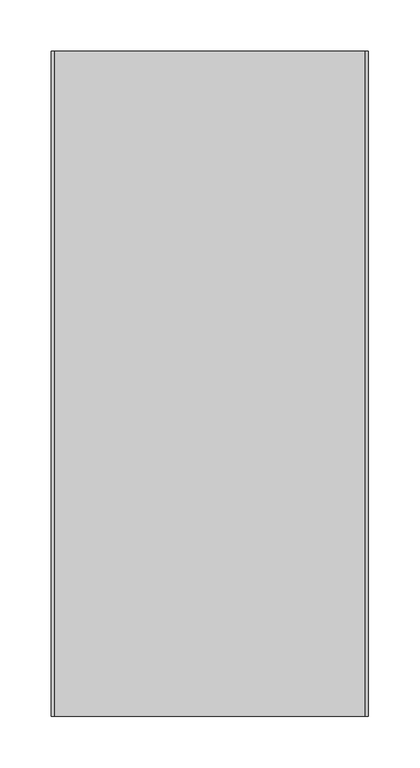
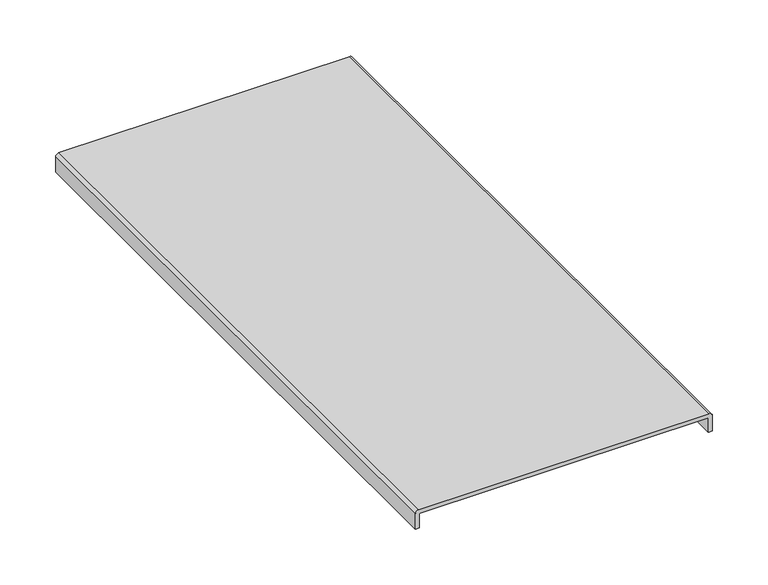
"""IFC4 building model written with IfcOpenShell, lengths in millimetres: proxy geometry, Cable_Tray_Cover_TWT_Basorcanal : Basorcanal TWT 300."""

from ifc_helpers import new_model, si_unit, point, frame, frame_2d, origin, place, context, project, spatial, polyline, circle_curve, trimmed, segment, composite_curve, outline, extrude, source, transform, mapped, element, save


def generic_models_6d804a78(model_context):
    return source(origin(), model_context, "Body", "SweptSolid", [
        extrude(outline(composite_curve([segment(trimmed(circle_curve(frame_2d((-0.5, -149.5)), 0.5), [point((-0.5, -150.0))], [point((0.0, -149.5))], True, "CARTESIAN"), True, "CONTINUOUS"), segment(polyline([(0.0, -149.5), (0.0, 149.5)]), True, "CONTINUOUS"), segment(trimmed(circle_curve(frame_2d((-0.5, 149.5)), 0.5), [point((0.0, 149.5))], [point((-0.5, 150.0))], True, "CARTESIAN"), True, "CONTINUOUS"), segment(polyline([(-0.5, 150.0), (-16.0, 150.0), (-16.0, 154.0), (0.9268922, 154.0)]), True, "CONTINUOUS"), segment(trimmed(circle_curve(frame_2d((0.9268922, 150.9268922)), 3.0731078), [point((0.9268922, 154.0))], [point((4.0, 150.9268922))], False, "CARTESIAN"), True, "CONTINUOUS"), segment(polyline([(4.0, 150.9268922), (4.0, -150.6770801)]), True, "CONTINUOUS"), segment(trimmed(circle_curve(frame_2d((0.6770801, -150.6770801)), 3.3229199), [point((4.0, -150.6770801))], [point((0.6770801, -154.0))], False, "CARTESIAN"), True, "CONTINUOUS"), segment(polyline([(0.6770801, -154.0), (-16.0, -154.0), (-16.0, -150.0), (-0.5, -150.0)]), True, "CONTINUOUS")], self_intersect=False)), frame((0.0, 0.0, 0.0), z_axis=(0.0, 1.0, 0.0), x_axis=(0.0, 0.0, 1.0)), (0.0, 0.0, 1.0), 646.5),
    ])


if __name__ == "__main__":
    model = new_model("IFC4")
    model_context = context("Model", 3, world=origin())
    ifc_project = project(units=[si_unit("LENGTHUNIT", "METRE", prefix="MILLI")], contexts=[model_context])
    site = spatial("IfcSite", under=ifc_project)
    building = spatial("IfcBuilding", under=site)
    placement = place(None, origin())
    generic_models_shape = generic_models_6d804a78(model_context)
    element("IfcBuildingElementProxy", 1, Name="Cable_Tray_Cover_TWT_Basorcanal : Basorcanal TWT 300", ObjectType="Cable_Tray_Cover_TWT_Basorcanal : Basorcanal TWT 300", at=placement, inside=building, context=model_context, shape_type="MappedRepresentation", body=[
        mapped(generic_models_shape, transform((0.0, 0.0, 0.0), x_axis=(1.0, 0.0, 0.0), y_axis=(0.0, 1.0, 0.0), z_axis=(0.0, 0.0, 1.0))),
    ])
    save(model, "model.ifc")
